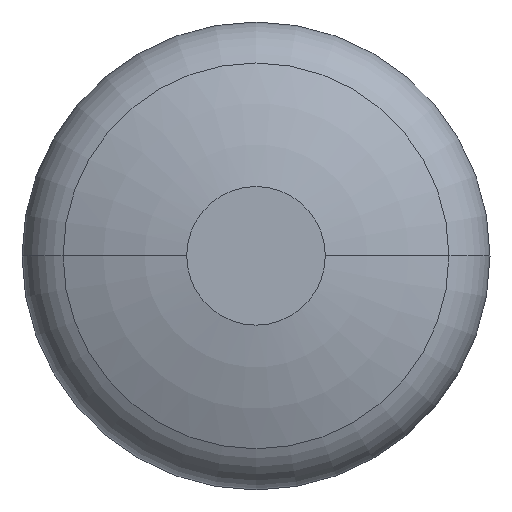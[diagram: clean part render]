
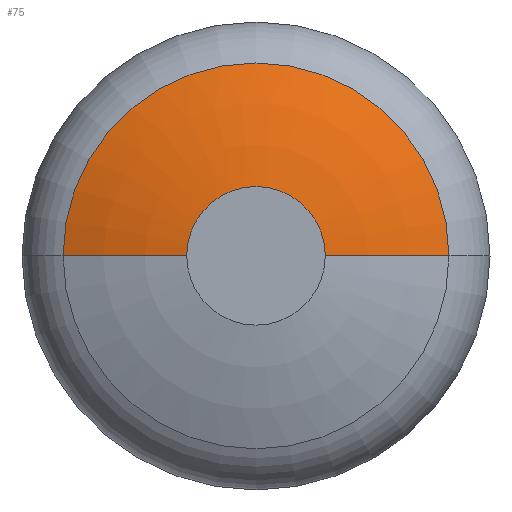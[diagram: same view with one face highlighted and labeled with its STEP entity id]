
A CAD part, top view. The second image highlights one B-rep face of the part: STEP entity #75.
In plain terms, the highlighted toroidal (fillet/blend) face has major radius 0 mm and minor radius 40 mm.
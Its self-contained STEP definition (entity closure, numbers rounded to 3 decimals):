
#75 = ADVANCED_FACE( '', ( #144 ), #145, .T. );
#144 = FACE_OUTER_BOUND( '', #288, .T. );
#145 = TOROIDAL_SURFACE( '', #289, 0., 40. );
#288 = EDGE_LOOP( '', ( #432, #433, #434, #435, #436 ) );
#289 = AXIS2_PLACEMENT_3D( '', #437, #438, #439 );
#432 = ORIENTED_EDGE( '', *, *, #954, .F. );
#433 = ORIENTED_EDGE( '', *, *, #955, .T. );
#434 = ORIENTED_EDGE( '', *, *, #956, .T. );
#435 = ORIENTED_EDGE( '', *, *, #957, .F. );
#436 = ORIENTED_EDGE( '', *, *, #958, .T. );
#437 = CARTESIAN_POINT( '', ( 0., 0., 26.805 ) );
#438 = DIRECTION( '', ( 0., 0., 1. ) );
#439 = DIRECTION( '', ( 1., 0., 0. ) );
#954 = EDGE_CURVE( '', #1113, #1114, #1115, .T. );
#955 = EDGE_CURVE( '', #1113, #1116, #1117, .T. );
#956 = EDGE_CURVE( '', #1116, #1118, #1119, .T. );
#957 = EDGE_CURVE( '', #1120, #1118, #1121, .T. );
#958 = EDGE_CURVE( '', #1120, #1114, #1122, .T. );
#1113 = VERTEX_POINT( '', #1373 );
#1114 = VERTEX_POINT( '', #1374 );
#1115 = CIRCLE( '', #1375, 40. );
#1116 = VERTEX_POINT( '', #1376 );
#1117 = CIRCLE( '', #1377, 15.666 );
#1118 = VERTEX_POINT( '', #1378 );
#1119 = CIRCLE( '', #1379, 15.666 );
#1120 = VERTEX_POINT( '', #1380 );
#1121 = CIRCLE( '', #1381, 40. );
#1122 = CIRCLE( '', #1382, 5.625 );
#1373 = CARTESIAN_POINT( '', ( 15.666, 0., 63.61 ) );
#1374 = CARTESIAN_POINT( '', ( 5.625, 0., 66.408 ) );
#1375 = AXIS2_PLACEMENT_3D( '', #1807, #1808, #1809 );
#1376 = CARTESIAN_POINT( '', ( 0., 15.666, 63.61 ) );
#1377 = AXIS2_PLACEMENT_3D( '', #1810, #1811, #1812 );
#1378 = CARTESIAN_POINT( '', ( -15.666, 0., 63.61 ) );
#1379 = AXIS2_PLACEMENT_3D( '', #1813, #1814, #1815 );
#1380 = CARTESIAN_POINT( '', ( -5.625, 0., 66.408 ) );
#1381 = AXIS2_PLACEMENT_3D( '', #1816, #1817, #1818 );
#1382 = AXIS2_PLACEMENT_3D( '', #1819, #1820, #1821 );
#1807 = CARTESIAN_POINT( '', ( 0., 0., 26.805 ) );
#1808 = DIRECTION( '', ( 0., -1., 0. ) );
#1809 = DIRECTION( '', ( 1., 0., 0. ) );
#1810 = CARTESIAN_POINT( '', ( 0., 0., 63.61 ) );
#1811 = DIRECTION( '', ( 0., 0., 1. ) );
#1812 = DIRECTION( '', ( 0., 1., 0. ) );
#1813 = CARTESIAN_POINT( '', ( 0., 0., 63.61 ) );
#1814 = DIRECTION( '', ( 0., 0., 1. ) );
#1815 = DIRECTION( '', ( 0., 1., 0. ) );
#1816 = CARTESIAN_POINT( '', ( 0., 0., 26.805 ) );
#1817 = DIRECTION( '', ( 0., -1., 0. ) );
#1818 = DIRECTION( '', ( -1., 0., 0. ) );
#1819 = CARTESIAN_POINT( '', ( 0., 0., 66.408 ) );
#1820 = DIRECTION( '', ( 0., 0., -1. ) );
#1821 = DIRECTION( '', ( 1., 0., 0. ) );
